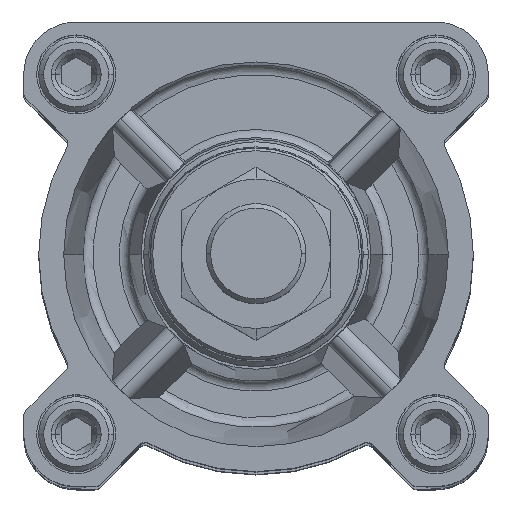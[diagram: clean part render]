
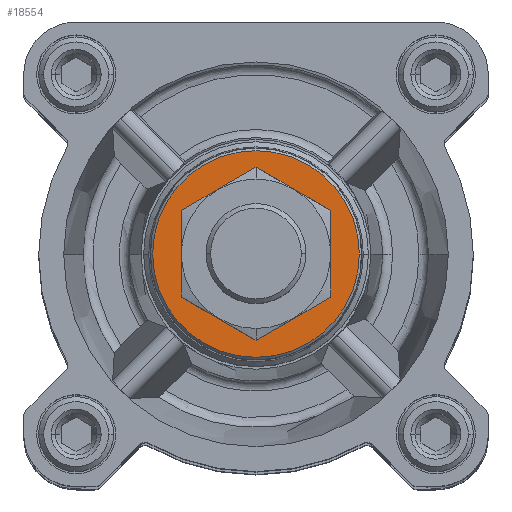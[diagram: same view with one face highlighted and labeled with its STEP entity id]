
A CAD part, top view. The second image highlights one B-rep face of the part: STEP entity #18554.
In plain terms, the highlighted planar face has unit normal (0, 0, 1).
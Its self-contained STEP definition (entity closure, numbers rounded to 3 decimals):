
#37 = DIRECTION ( 'NONE',  ( -1., 0., 0. ) ) ;
#84 = DIRECTION ( 'NONE',  ( 0., 0., -1. ) ) ;
#630 = AXIS2_PLACEMENT_3D ( 'NONE', #14409, #15635, #37 ) ;
#798 = CARTESIAN_POINT ( 'NONE',  ( 0., 0., 34.2 ) ) ;
#1322 = VERTEX_POINT ( 'NONE', #7261 ) ;
#1562 = CIRCLE ( 'NONE', #7597, 12.5 ) ;
#1661 = DIRECTION ( 'NONE',  ( 0., 0., -1. ) ) ;
#2213 = VERTEX_POINT ( 'NONE', #11710 ) ;
#2308 = PLANE ( 'NONE',  #5498 ) ;
#2454 = EDGE_CURVE ( 'NONE', #2213, #12099, #8143, .T. ) ;
#4254 = VERTEX_POINT ( 'NONE', #10221 ) ;
#4337 = CARTESIAN_POINT ( 'NONE',  ( 0., 0., 34.2 ) ) ;
#4570 = CIRCLE ( 'NONE', #18437, 20.686 ) ;
#5124 = AXIS2_PLACEMENT_3D ( 'NONE', #4337, #84, #11601 ) ;
#5498 = AXIS2_PLACEMENT_3D ( 'NONE', #798, #18092, #15084 ) ;
#6661 = FACE_OUTER_BOUND ( 'NONE', #8374, .T. ) ;
#6965 = CIRCLE ( 'NONE', #630, 12.5 ) ;
#7261 = CARTESIAN_POINT ( 'NONE',  ( -12.5, 0., 34.2 ) ) ;
#7597 = AXIS2_PLACEMENT_3D ( 'NONE', #14619, #1661, #13183 ) ;
#7903 = FACE_BOUND ( 'NONE', #8925, .T. ) ;
#8143 = CIRCLE ( 'NONE', #5124, 20.686 ) ;
#8176 = ORIENTED_EDGE ( 'NONE', *, *, #17125, .F. ) ;
#8374 = EDGE_LOOP ( 'NONE', ( #8176, #12463 ) ) ;
#8685 = CARTESIAN_POINT ( 'NONE',  ( 0., 0., 34.2 ) ) ;
#8925 = EDGE_LOOP ( 'NONE', ( #16414, #11257 ) ) ;
#10093 = DIRECTION ( 'NONE',  ( -1., 0., 0. ) ) ;
#10221 = CARTESIAN_POINT ( 'NONE',  ( 12.5, 0., 34.2 ) ) ;
#11257 = ORIENTED_EDGE ( 'NONE', *, *, #17460, .T. ) ;
#11601 = DIRECTION ( 'NONE',  ( -1., 0., 0. ) ) ;
#11685 = DIRECTION ( 'NONE',  ( 0., 0., -1. ) ) ;
#11710 = CARTESIAN_POINT ( 'NONE',  ( 20.686, 0., 34.2 ) ) ;
#12099 = VERTEX_POINT ( 'NONE', #18638 ) ;
#12463 = ORIENTED_EDGE ( 'NONE', *, *, #2454, .F. ) ;
#13183 = DIRECTION ( 'NONE',  ( -1., 0., 0. ) ) ;
#14409 = CARTESIAN_POINT ( 'NONE',  ( 0., 0., 34.2 ) ) ;
#14619 = CARTESIAN_POINT ( 'NONE',  ( 0., 0., 34.2 ) ) ;
#15084 = DIRECTION ( 'NONE',  ( 0., -1., 0. ) ) ;
#15635 = DIRECTION ( 'NONE',  ( 0., 0., -1. ) ) ;
#15824 = EDGE_CURVE ( 'NONE', #1322, #4254, #6965, .T. ) ;
#16414 = ORIENTED_EDGE ( 'NONE', *, *, #15824, .T. ) ;
#17125 = EDGE_CURVE ( 'NONE', #12099, #2213, #4570, .T. ) ;
#17460 = EDGE_CURVE ( 'NONE', #4254, #1322, #1562, .T. ) ;
#18092 = DIRECTION ( 'NONE',  ( 0., 0., -1. ) ) ;
#18437 = AXIS2_PLACEMENT_3D ( 'NONE', #8685, #11685, #10093 ) ;
#18554 = ADVANCED_FACE ( 'NONE', ( #6661, #7903 ), #2308, .F. ) ;
#18638 = CARTESIAN_POINT ( 'NONE',  ( -20.686, 0., 34.2 ) ) ;
